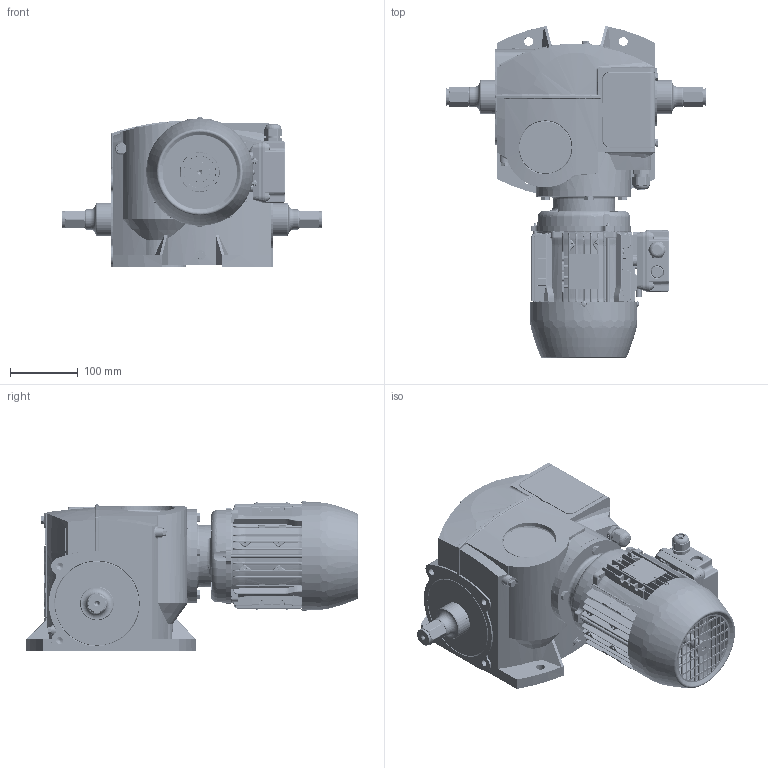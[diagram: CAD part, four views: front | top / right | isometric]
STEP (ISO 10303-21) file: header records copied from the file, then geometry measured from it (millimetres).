
FILE_DESCRIPTION (( 'STEP AP214' ), '1' );
FILE_NAME ('EWA_16_9205_12216_9205_6601_STEP_20140819.STEP', '2014-08-19T12:14:55', ( '' ), ( '' ), 'SwSTEP 2.0', 'SolidWorks 2013', '' );
FILE_SCHEMA (( 'AUTOMOTIVE_DESIGN' ));
Length unit declared in the file: millimetre
Products named in the file (1): EWA_16_9205_12216_9205_6601_STEP_20140819
Bounding box: 385 x 491.09 x 221.2 mm (x, y, z)
Volume: 3046958.1 mm3; surface area: 1212134.9 mm2
Topology: 75 solids, 79 shells, 10638 faces, 26533 edges, 16414 vertices
Faces by surface type: plane 3762, cylinder 2824, bspline 2148, cone 826, torus 772, sphere 306
Entity records: 511253 total; most frequent: CARTESIAN_POINT 155835, ORIENTED_EDGE 52742, DIRECTION 45028, EDGE_CURVE 26371, VERTEX_POINT 16396, AXIS2_PLACEMENT_3D 16235, VECTOR 12558, LINE 12558
